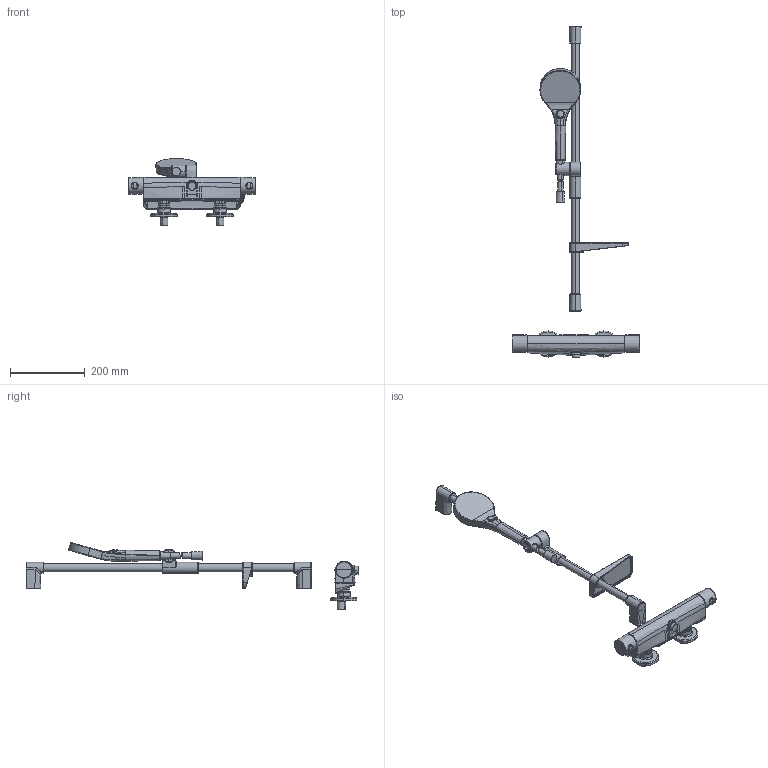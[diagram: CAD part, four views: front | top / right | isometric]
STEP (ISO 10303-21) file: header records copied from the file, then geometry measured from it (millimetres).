
FILE_DESCRIPTION (( 'STEP AP203' ), '1' );
FILE_NAME ('7169NU(2023).STEP', '2023-10-31T08:53:29', ( '' ), ( '' ), 'SwSTEP 2.0', 'SolidWorks 2016', '' );
FILE_SCHEMA (( 'CONFIG_CONTROL_DESIGN' ));
Length unit declared in the file: millimetre
Products named in the file (1): 7169NU(2023)
Bounding box: 342.5 x 890.21 x 179.32 mm (x, y, z)
Volume: 1925177 mm3; surface area: 341652.4 mm2
Topology: 23 solids, 23 shells, 1187 faces, 2815 edges, 1648 vertices
Faces by surface type: bspline 707, cylinder 174, plane 142, cone 98, torus 46, sphere 20
Entity records: 81019 total; most frequent: CARTESIAN_POINT 59306, ORIENTED_EDGE 5536, DIRECTION 2960, EDGE_CURVE 2768, VERTEX_POINT 1649, B_SPLINE_CURVE_WITH_KNOTS 1439, AXIS2_PLACEMENT_3D 1274, EDGE_LOOP 1213
